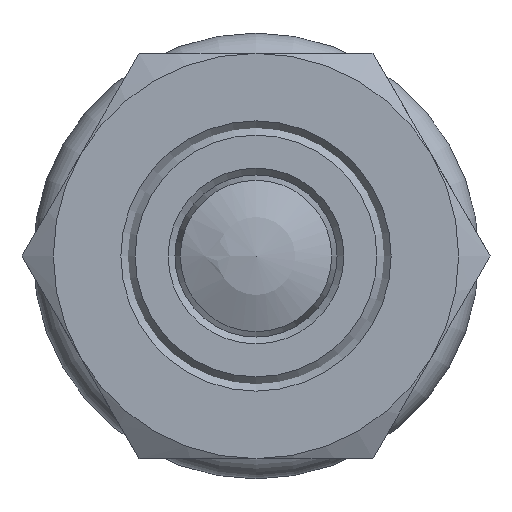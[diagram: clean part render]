
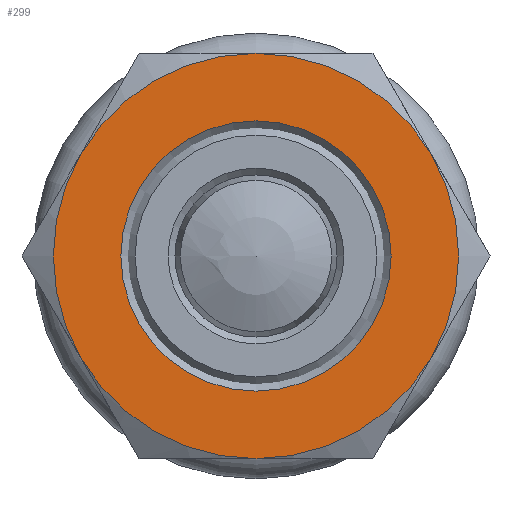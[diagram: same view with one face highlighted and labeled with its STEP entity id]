
A CAD part, front view. The second image highlights one B-rep face of the part: STEP entity #299.
In plain terms, the highlighted planar face has unit normal (0, -1, 0).
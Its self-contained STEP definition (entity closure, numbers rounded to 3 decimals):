
#299 = ADVANCED_FACE( '', ( #450, #451 ), #452, .F. );
#450 = FACE_BOUND( '', #604, .T. );
#451 = FACE_OUTER_BOUND( '', #605, .T. );
#452 = PLANE( '', #606 );
#604 = EDGE_LOOP( '', ( #952 ) );
#605 = EDGE_LOOP( '', ( #953, #954, #955, #956, #957, #958 ) );
#606 = AXIS2_PLACEMENT_3D( '', #959, #960, #961 );
#952 = ORIENTED_EDGE( '', *, *, #1063, .F. );
#953 = ORIENTED_EDGE( '', *, *, #1066, .T. );
#954 = ORIENTED_EDGE( '', *, *, #1067, .T. );
#955 = ORIENTED_EDGE( '', *, *, #1033, .T. );
#956 = ORIENTED_EDGE( '', *, *, #1058, .T. );
#957 = ORIENTED_EDGE( '', *, *, #1059, .T. );
#958 = ORIENTED_EDGE( '', *, *, #1060, .T. );
#959 = CARTESIAN_POINT( '', ( 15., 0., 0. ) );
#960 = DIRECTION( '', ( 0., 1., 0. ) );
#961 = DIRECTION( '', ( 0., 0., 1. ) );
#1033 = EDGE_CURVE( '', #1175, #1176, #1177, .T. );
#1058 = EDGE_CURVE( '', #1176, #1157, #1214, .T. );
#1059 = EDGE_CURVE( '', #1157, #1169, #1215, .T. );
#1060 = EDGE_CURVE( '', #1169, #1216, #1217, .T. );
#1063 = EDGE_CURVE( '', #1220, #1220, #1221, .T. );
#1066 = EDGE_CURVE( '', #1216, #1184, #1226, .T. );
#1067 = EDGE_CURVE( '', #1184, #1175, #1227, .T. );
#1157 = VERTEX_POINT( '', #1456 );
#1169 = VERTEX_POINT( '', #1498 );
#1175 = VERTEX_POINT( '', #1528 );
#1176 = VERTEX_POINT( '', #1529 );
#1177 = CIRCLE( '', #1530, 15. );
#1184 = VERTEX_POINT( '', #1550 );
#1214 = CIRCLE( '', #1658, 15. );
#1215 = CIRCLE( '', #1659, 15. );
#1216 = VERTEX_POINT( '', #1660 );
#1217 = CIRCLE( '', #1661, 15. );
#1220 = VERTEX_POINT( '', #1676 );
#1221 = CIRCLE( '', #1677, 10. );
#1226 = CIRCLE( '', #1682, 15. );
#1227 = CIRCLE( '', #1683, 15. );
#1456 = CARTESIAN_POINT( '', ( -15., 0., 0. ) );
#1498 = CARTESIAN_POINT( '', ( -7.5, 0., -12.99 ) );
#1528 = CARTESIAN_POINT( '', ( 7.5, 0., 12.99 ) );
#1529 = CARTESIAN_POINT( '', ( -7.5, 0., 12.99 ) );
#1530 = AXIS2_PLACEMENT_3D( '', #1777, #1778, #1779 );
#1550 = CARTESIAN_POINT( '', ( 15., 0., 0. ) );
#1658 = AXIS2_PLACEMENT_3D( '', #1804, #1805, #1806 );
#1659 = AXIS2_PLACEMENT_3D( '', #1807, #1808, #1809 );
#1660 = CARTESIAN_POINT( '', ( 7.5, 0., -12.99 ) );
#1661 = AXIS2_PLACEMENT_3D( '', #1810, #1811, #1812 );
#1676 = CARTESIAN_POINT( '', ( 0., 0., -10. ) );
#1677 = AXIS2_PLACEMENT_3D( '', #1813, #1814, #1815 );
#1682 = AXIS2_PLACEMENT_3D( '', #1822, #1823, #1824 );
#1683 = AXIS2_PLACEMENT_3D( '', #1825, #1826, #1827 );
#1777 = CARTESIAN_POINT( '', ( 0., 0., 0. ) );
#1778 = DIRECTION( '', ( 0., -1., 0. ) );
#1779 = DIRECTION( '', ( 0., 0., -1. ) );
#1804 = CARTESIAN_POINT( '', ( 0., 0., 0. ) );
#1805 = DIRECTION( '', ( 0., -1., 0. ) );
#1806 = DIRECTION( '', ( 0., 0., -1. ) );
#1807 = CARTESIAN_POINT( '', ( 0., 0., 0. ) );
#1808 = DIRECTION( '', ( 0., -1., 0. ) );
#1809 = DIRECTION( '', ( 0., 0., -1. ) );
#1810 = CARTESIAN_POINT( '', ( 0., 0., 0. ) );
#1811 = DIRECTION( '', ( 0., -1., 0. ) );
#1812 = DIRECTION( '', ( 0., 0., -1. ) );
#1813 = CARTESIAN_POINT( '', ( 0., 0., 0. ) );
#1814 = DIRECTION( '', ( 0., -1., 0. ) );
#1815 = DIRECTION( '', ( 0., 0., -1. ) );
#1822 = CARTESIAN_POINT( '', ( 0., 0., 0. ) );
#1823 = DIRECTION( '', ( 0., -1., 0. ) );
#1824 = DIRECTION( '', ( 0., 0., -1. ) );
#1825 = CARTESIAN_POINT( '', ( 0., 0., 0. ) );
#1826 = DIRECTION( '', ( 0., -1., 0. ) );
#1827 = DIRECTION( '', ( 0., 0., -1. ) );
